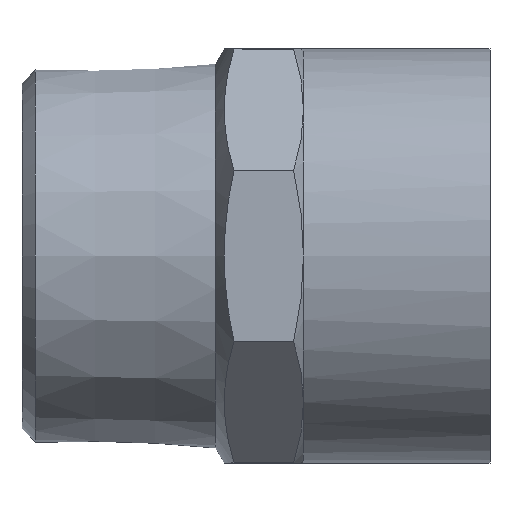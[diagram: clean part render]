
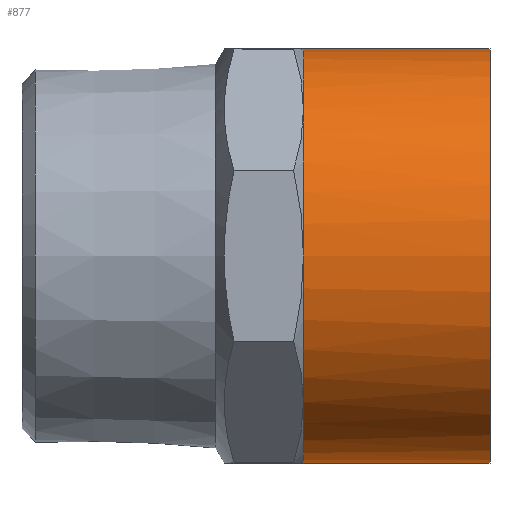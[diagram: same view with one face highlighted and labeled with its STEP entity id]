
A CAD part, front view. The second image highlights one B-rep face of the part: STEP entity #877.
In plain terms, the highlighted cylindrical face has radius 23 mm (diameter 46 mm), a full revolution.
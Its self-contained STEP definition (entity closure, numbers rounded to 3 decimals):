
#143=CARTESIAN_POINT('',(31.272,16.263,16.263));
#144=VERTEX_POINT('',#143);
#212=CARTESIAN_POINT('',(31.272,23.,0.));
#213=VERTEX_POINT('',#212);
#270=CARTESIAN_POINT('',(31.272,16.263,-16.263));
#271=VERTEX_POINT('',#270);
#330=CARTESIAN_POINT('',(31.272,0.,-23.));
#331=VERTEX_POINT('',#330);
#390=CARTESIAN_POINT('',(31.272,-16.263,-16.263));
#391=VERTEX_POINT('',#390);
#450=CARTESIAN_POINT('',(31.272,-23.,0.));
#451=VERTEX_POINT('',#450);
#510=CARTESIAN_POINT('',(31.272,-16.263,16.263));
#511=VERTEX_POINT('',#510);
#610=CARTESIAN_POINT('',(31.272,0.,23.));
#611=VERTEX_POINT('',#610);
#612=CARTESIAN_POINT('',(31.272,0.0,0.0));
#613=DIRECTION('',(1.0,0.0,0.0));
#614=DIRECTION('',(0.0,1.0,0.0));
#615=AXIS2_PLACEMENT_3D('',#612,#613,#614);
#616=CIRCLE('',#615,23.);
#617=EDGE_CURVE('',#611,#511,#616,.T.);
#641=CARTESIAN_POINT('',(31.272,0.0,0.0));
#642=DIRECTION('',(1.0,0.0,0.0));
#643=DIRECTION('',(0.0,1.0,0.0));
#644=AXIS2_PLACEMENT_3D('',#641,#642,#643);
#645=CIRCLE('',#644,23.);
#646=EDGE_CURVE('',#511,#451,#645,.T.);
#658=CARTESIAN_POINT('',(31.272,0.0,0.0));
#659=DIRECTION('',(1.0,0.0,0.0));
#660=DIRECTION('',(0.0,1.0,0.0));
#661=AXIS2_PLACEMENT_3D('',#658,#659,#660);
#662=CIRCLE('',#661,23.);
#663=EDGE_CURVE('',#451,#391,#662,.T.);
#675=CARTESIAN_POINT('',(31.272,0.0,0.0));
#676=DIRECTION('',(1.0,0.0,0.0));
#677=DIRECTION('',(0.0,1.0,0.0));
#678=AXIS2_PLACEMENT_3D('',#675,#676,#677);
#679=CIRCLE('',#678,23.);
#680=EDGE_CURVE('',#391,#331,#679,.T.);
#705=CARTESIAN_POINT('',(31.272,0.0,0.0));
#706=DIRECTION('',(1.0,0.0,0.0));
#707=DIRECTION('',(0.0,1.0,0.0));
#708=AXIS2_PLACEMENT_3D('',#705,#706,#707);
#709=CIRCLE('',#708,23.);
#710=EDGE_CURVE('',#144,#611,#709,.T.);
#721=CARTESIAN_POINT('',(31.272,0.0,0.0));
#722=DIRECTION('',(1.0,0.0,0.0));
#723=DIRECTION('',(0.0,1.0,0.0));
#724=AXIS2_PLACEMENT_3D('',#721,#722,#723);
#725=CIRCLE('',#724,23.);
#726=EDGE_CURVE('',#331,#271,#725,.T.);
#739=CARTESIAN_POINT('',(31.272,0.0,0.0));
#740=DIRECTION('',(1.0,0.0,0.0));
#741=DIRECTION('',(0.0,1.0,0.0));
#742=AXIS2_PLACEMENT_3D('',#739,#740,#741);
#743=CIRCLE('',#742,23.);
#744=EDGE_CURVE('',#213,#144,#743,.T.);
#840=CARTESIAN_POINT('',(31.272,0.0,0.0));
#841=DIRECTION('',(1.0,0.0,0.0));
#842=DIRECTION('',(0.0,1.0,0.0));
#843=AXIS2_PLACEMENT_3D('',#840,#841,#842);
#844=CIRCLE('',#843,23.);
#845=EDGE_CURVE('',#271,#213,#844,.T.);
#851=CARTESIAN_POINT('',(41.636,0.0,0.0));
#852=DIRECTION('',(1.0,0.0,0.0));
#853=DIRECTION('',(0.0,1.0,0.0));
#854=AXIS2_PLACEMENT_3D('',#851,#852,#853);
#855=CYLINDRICAL_SURFACE('',#854,23.);
#856=CARTESIAN_POINT('',(52.0,23.,0.0));
#857=VERTEX_POINT('',#856);
#858=CARTESIAN_POINT('',(52.0,0.0,0.0));
#859=DIRECTION('',(1.0,0.0,0.0));
#860=DIRECTION('',(0.0,1.0,0.0));
#861=AXIS2_PLACEMENT_3D('',#858,#859,#860);
#862=CIRCLE('',#861,23.);
#863=EDGE_CURVE('',#857,#857,#862,.T.);
#864=ORIENTED_EDGE('',*,*,#863,.F.);
#865=EDGE_LOOP('',(#864));
#866=FACE_OUTER_BOUND('',#865,.T.);
#867=ORIENTED_EDGE('',*,*,#617,.T.);
#868=ORIENTED_EDGE('',*,*,#646,.T.);
#869=ORIENTED_EDGE('',*,*,#663,.T.);
#870=ORIENTED_EDGE('',*,*,#680,.T.);
#871=ORIENTED_EDGE('',*,*,#726,.T.);
#872=ORIENTED_EDGE('',*,*,#845,.T.);
#873=ORIENTED_EDGE('',*,*,#744,.T.);
#874=ORIENTED_EDGE('',*,*,#710,.T.);
#875=EDGE_LOOP('',(#867,#868,#869,#870,#871,#872,#873,#874));
#876=FACE_BOUND('',#875,.T.);
#877=ADVANCED_FACE('',(#866,#876),#855,.T.);
